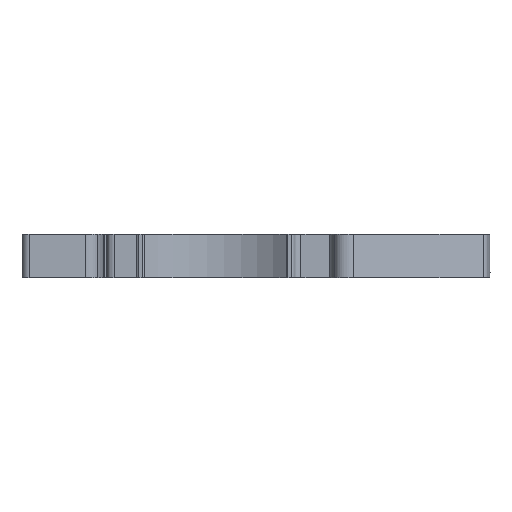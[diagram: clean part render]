
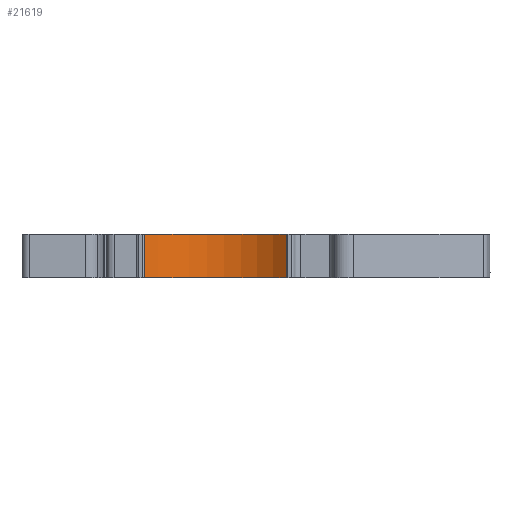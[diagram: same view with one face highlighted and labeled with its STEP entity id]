
A CAD part, front view. The second image highlights one B-rep face of the part: STEP entity #21619.
In plain terms, the highlighted cylindrical face has radius 15 mm (diameter 30 mm), a partial arc.
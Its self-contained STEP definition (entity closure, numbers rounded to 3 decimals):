
#248 = EDGE_CURVE ( 'NONE', #7016, #19585, #20232, .T. ) ;
#1093 = CARTESIAN_POINT ( 'NONE',  ( -5.807, 5.427, 6.225 ) ) ;
#1827 = CYLINDRICAL_SURFACE ( 'NONE', #13530, 15. ) ;
#2660 = ORIENTED_EDGE ( 'NONE', *, *, #11983, .F. ) ;
#2864 = DIRECTION ( 'NONE',  ( 1., 0., 0. ) ) ;
#3626 = VECTOR ( 'NONE', #8106, 1000. ) ;
#3755 = LINE ( 'NONE', #20528, #3626 ) ;
#4156 = VECTOR ( 'NONE', #14932, 1000. ) ;
#4202 = CARTESIAN_POINT ( 'NONE',  ( -15.92, 16.506, -0.099 ) ) ;
#4467 = LINE ( 'NONE', #4202, #4156 ) ;
#5226 = DIRECTION ( 'NONE',  ( 0., 0., 1. ) ) ;
#7016 = VERTEX_POINT ( 'NONE', #16052 ) ;
#7905 = ORIENTED_EDGE ( 'NONE', *, *, #11875, .F. ) ;
#8011 = VERTEX_POINT ( 'NONE', #12012 ) ;
#8106 = DIRECTION ( 'NONE',  ( 0., 0., -1. ) ) ;
#10482 = DIRECTION ( 'NONE',  ( 0., 0., -1. ) ) ;
#11727 = AXIS2_PLACEMENT_3D ( 'NONE', #1093, #13538, #2864 ) ;
#11875 = EDGE_CURVE ( 'NONE', #7016, #8011, #4467, .T. ) ;
#11983 = EDGE_CURVE ( 'NONE', #19768, #19585, #3755, .T. ) ;
#12012 = CARTESIAN_POINT ( 'NONE',  ( -15.92, 16.506, 6.225 ) ) ;
#13530 = AXIS2_PLACEMENT_3D ( 'NONE', #15886, #5226, #21174 ) ;
#13538 = DIRECTION ( 'NONE',  ( 0., 0., -1. ) ) ;
#13670 = ORIENTED_EDGE ( 'NONE', *, *, #248, .T. ) ;
#14932 = DIRECTION ( 'NONE',  ( 0., 0., 1. ) ) ;
#15886 = CARTESIAN_POINT ( 'NONE',  ( -5.807, 5.427, -0.099 ) ) ;
#16012 = FACE_OUTER_BOUND ( 'NONE', #18373, .T. ) ;
#16052 = CARTESIAN_POINT ( 'NONE',  ( -15.92, 16.506, 0.025 ) ) ;
#18139 = CARTESIAN_POINT ( 'NONE',  ( 4.306, 16.506, 6.225 ) ) ;
#18373 = EDGE_LOOP ( 'NONE', ( #2660, #20987, #7905, #13670 ) ) ;
#19585 = VERTEX_POINT ( 'NONE', #21040 ) ;
#19768 = VERTEX_POINT ( 'NONE', #18139 ) ;
#20232 = CIRCLE ( 'NONE', #20886, 15. ) ;
#20470 = EDGE_CURVE ( 'NONE', #8011, #19768, #21884, .T. ) ;
#20528 = CARTESIAN_POINT ( 'NONE',  ( 4.306, 16.506, -0.099 ) ) ;
#20886 = AXIS2_PLACEMENT_3D ( 'NONE', #22884, #10482, #21115 ) ;
#20987 = ORIENTED_EDGE ( 'NONE', *, *, #20470, .F. ) ;
#21040 = CARTESIAN_POINT ( 'NONE',  ( 4.306, 16.506, 0.025 ) ) ;
#21115 = DIRECTION ( 'NONE',  ( 1., 0., 0. ) ) ;
#21174 = DIRECTION ( 'NONE',  ( 1., 0., 0. ) ) ;
#21619 = ADVANCED_FACE ( 'NONE', ( #16012 ), #1827, .F. ) ;
#21884 = CIRCLE ( 'NONE', #11727, 15. ) ;
#22884 = CARTESIAN_POINT ( 'NONE',  ( -5.807, 5.427, 0.025 ) ) ;
